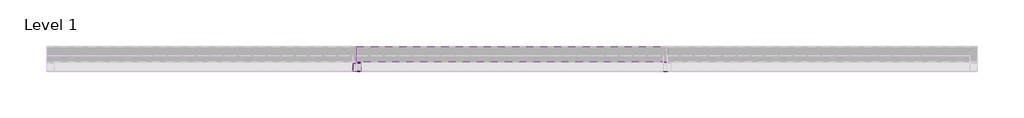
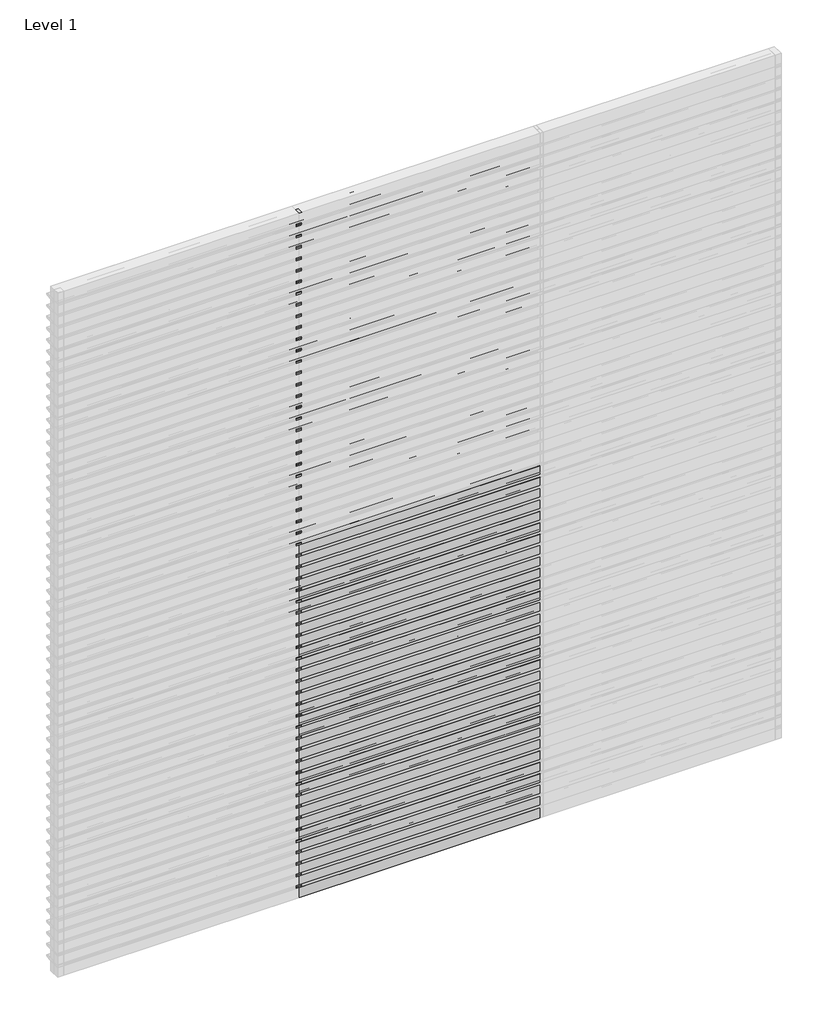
# One storey, part 3 of 6: 99 members, 31 plates.
"""IFC4 building model written with IfcOpenShell, lengths in millimetres."""

from ifc_helpers import new_model, si_unit, origin, place, context, project, spatial, transform, mapped, element, save
from components import rectangular_mullion_31e9810d, rectangular_mullion_ae434dd9, empty_system_panel_empty_de6cefbe, empty_system_panel_empty_499a71de

model = new_model("IFC4")

# Units and contexts
model_context = context("Model", 3, world=origin())
ifc_project = project(units=[si_unit("LENGTHUNIT", "METRE", prefix="MILLI")], contexts=[model_context])

# Site, building, storey
site = spatial("IfcSite", under=ifc_project)
building = spatial("IfcBuilding", under=site)
storey = spatial("IfcBuildingStorey", under=building, Name="Level 1", Elevation=0.0)

# Members
placement = place(None, origin())
rectangular_mullion_shape = rectangular_mullion_31e9810d(model_context)
element("IfcMember", 1, ObjectType="Rectangular Mullion : RSen_21_CWM_blade - 100 ellips - 0°_gen_duco projects", at=placement, inside=storey, context=model_context, shape_type="MappedRepresentation", body=[
    mapped(rectangular_mullion_shape, transform((2000.0, 3000.0, 2100.0), x_axis=(0.0, 0.0, 1.0), y_axis=(0.0, 1.0, 0.0), z_axis=(-1.0, 0.0, 0.0))),
])
element("IfcMember", 2, ObjectType="Rectangular Mullion : RSen_21_CWM_blade - 100 ellips - 0°_gen_duco projects", at=placement, inside=storey, context=model_context, shape_type="MappedRepresentation", body=[
    mapped(rectangular_mullion_shape, transform((2000.0, 3000.0, 2200.0), x_axis=(0.0, 0.0, 1.0), y_axis=(0.0, 1.0, 0.0), z_axis=(-1.0, 0.0, 0.0))),
])
element("IfcMember", 3, ObjectType="Rectangular Mullion : RSen_21_CWM_blade - 100 ellips - 0°_gen_duco projects", at=placement, inside=storey, context=model_context, shape_type="MappedRepresentation", body=[
    mapped(rectangular_mullion_shape, transform((2000.0, 3000.0, 2300.0), x_axis=(0.0, 0.0, 1.0), y_axis=(0.0, 1.0, 0.0), z_axis=(-1.0, 0.0, 0.0))),
])
element("IfcMember", 4, ObjectType="Rectangular Mullion : RSen_21_CWM_blade - 100 ellips - 0°_gen_duco projects", at=placement, inside=storey, context=model_context, shape_type="MappedRepresentation", body=[
    mapped(rectangular_mullion_shape, transform((2000.0, 3000.0, 2400.0), x_axis=(0.0, 0.0, 1.0), y_axis=(0.0, 1.0, 0.0), z_axis=(-1.0, 0.0, 0.0))),
])
element("IfcMember", 5, ObjectType="Rectangular Mullion : RSen_21_CWM_blade - 100 ellips - 0°_gen_duco projects", at=placement, inside=storey, context=model_context, shape_type="MappedRepresentation", body=[
    mapped(rectangular_mullion_shape, transform((2000.0, 3000.0, 2500.0), x_axis=(0.0, 0.0, 1.0), y_axis=(0.0, 1.0, 0.0), z_axis=(-1.0, 0.0, 0.0))),
])
element("IfcMember", 6, ObjectType="Rectangular Mullion : RSen_21_CWM_blade - 100 ellips - 0°_gen_duco projects", at=placement, inside=storey, context=model_context, shape_type="MappedRepresentation", body=[
    mapped(rectangular_mullion_shape, transform((2000.0, 3000.0, 2600.0), x_axis=(0.0, 0.0, 1.0), y_axis=(0.0, 1.0, 0.0), z_axis=(-1.0, 0.0, 0.0))),
])
element("IfcMember", 7, ObjectType="Rectangular Mullion : RSen_21_CWM_blade - 100 ellips - 0°_gen_duco projects", at=placement, inside=storey, context=model_context, shape_type="MappedRepresentation", body=[
    mapped(rectangular_mullion_shape, transform((2000.0, 3000.0, 2700.0), x_axis=(0.0, 0.0, 1.0), y_axis=(0.0, 1.0, 0.0), z_axis=(-1.0, 0.0, 0.0))),
])
element("IfcMember", 8, ObjectType="Rectangular Mullion : RSen_21_CWM_blade - 100 ellips - 0°_gen_duco projects", at=placement, inside=storey, context=model_context, shape_type="MappedRepresentation", body=[
    mapped(rectangular_mullion_shape, transform((2000.0, 3000.0, 2800.0), x_axis=(0.0, 0.0, 1.0), y_axis=(0.0, 1.0, 0.0), z_axis=(-1.0, 0.0, 0.0))),
])
element("IfcMember", 9, ObjectType="Rectangular Mullion : RSen_21_CWM_blade - 100 ellips - 0°_gen_duco projects", at=placement, inside=storey, context=model_context, shape_type="MappedRepresentation", body=[
    mapped(rectangular_mullion_shape, transform((2000.0, 3000.0, 2900.0), x_axis=(0.0, 0.0, 1.0), y_axis=(0.0, 1.0, 0.0), z_axis=(-1.0, 0.0, 0.0))),
])
element("IfcMember", 10, ObjectType="Rectangular Mullion : RSen_21_CWM_blade - 100 ellips - 0°_gen_duco projects", at=placement, inside=storey, context=model_context, shape_type="MappedRepresentation", body=[
    mapped(rectangular_mullion_shape, transform((2000.0, 3000.0, 3000.0), x_axis=(0.0, 0.0, 1.0), y_axis=(0.0, 1.0, 0.0), z_axis=(-1.0, 0.0, 0.0))),
])
element("IfcMember", 11, ObjectType="Rectangular Mullion : RSen_21_CWM_blade - 100 ellips - 0°_gen_duco projects", at=placement, inside=storey, context=model_context, shape_type="MappedRepresentation", body=[
    mapped(rectangular_mullion_shape, transform((2000.0, 3000.0, 3100.0), x_axis=(0.0, 0.0, 1.0), y_axis=(0.0, 1.0, 0.0), z_axis=(-1.0, 0.0, 0.0))),
])
element("IfcMember", 12, ObjectType="Rectangular Mullion : RSen_21_CWM_blade - 100 ellips - 0°_gen_duco projects", at=placement, inside=storey, context=model_context, shape_type="MappedRepresentation", body=[
    mapped(rectangular_mullion_shape, transform((2000.0, 3000.0, 3200.0), x_axis=(0.0, 0.0, 1.0), y_axis=(0.0, 1.0, 0.0), z_axis=(-1.0, 0.0, 0.0))),
])
element("IfcMember", 13, ObjectType="Rectangular Mullion : RSen_21_CWM_blade - 100 ellips - 0°_gen_duco projects", at=placement, inside=storey, context=model_context, shape_type="MappedRepresentation", body=[
    mapped(rectangular_mullion_shape, transform((2000.0, 3000.0, 3300.0), x_axis=(0.0, 0.0, 1.0), y_axis=(0.0, 1.0, 0.0), z_axis=(-1.0, 0.0, 0.0))),
])
element("IfcMember", 14, ObjectType="Rectangular Mullion : RSen_21_CWM_blade - 100 ellips - 0°_gen_duco projects", at=placement, inside=storey, context=model_context, shape_type="MappedRepresentation", body=[
    mapped(rectangular_mullion_shape, transform((2000.0, 3000.0, 3400.0), x_axis=(0.0, 0.0, 1.0), y_axis=(0.0, 1.0, 0.0), z_axis=(-1.0, 0.0, 0.0))),
])
element("IfcMember", 15, ObjectType="Rectangular Mullion : RSen_21_CWM_blade - 100 ellips - 0°_gen_duco projects", at=placement, inside=storey, context=model_context, shape_type="MappedRepresentation", body=[
    mapped(rectangular_mullion_shape, transform((2000.0, 3000.0, 3500.0), x_axis=(0.0, 0.0, 1.0), y_axis=(0.0, 1.0, 0.0), z_axis=(-1.0, 0.0, 0.0))),
])
element("IfcMember", 16, ObjectType="Rectangular Mullion : RSen_21_CWM_blade - 100 ellips - 0°_gen_duco projects", at=placement, inside=storey, context=model_context, shape_type="MappedRepresentation", body=[
    mapped(rectangular_mullion_shape, transform((2000.0, 3000.0, 3600.0), x_axis=(0.0, 0.0, 1.0), y_axis=(0.0, 1.0, 0.0), z_axis=(-1.0, 0.0, 0.0))),
])
element("IfcMember", 17, ObjectType="Rectangular Mullion : RSen_21_CWM_blade - 100 ellips - 0°_gen_duco projects", at=placement, inside=storey, context=model_context, shape_type="MappedRepresentation", body=[
    mapped(rectangular_mullion_shape, transform((2000.0, 3000.0, 3700.0), x_axis=(0.0, 0.0, 1.0), y_axis=(0.0, 1.0, 0.0), z_axis=(-1.0, 0.0, 0.0))),
])
element("IfcMember", 18, ObjectType="Rectangular Mullion : RSen_21_CWM_blade - 100 ellips - 0°_gen_duco projects", at=placement, inside=storey, context=model_context, shape_type="MappedRepresentation", body=[
    mapped(rectangular_mullion_shape, transform((2000.0, 3000.0, 3800.0), x_axis=(0.0, 0.0, 1.0), y_axis=(0.0, 1.0, 0.0), z_axis=(-1.0, 0.0, 0.0))),
])
element("IfcMember", 19, ObjectType="Rectangular Mullion : RSen_21_CWM_blade - 100 ellips - 0°_gen_duco projects", at=placement, inside=storey, context=model_context, shape_type="MappedRepresentation", body=[
    mapped(rectangular_mullion_shape, transform((2000.0, 3000.0, 3900.0), x_axis=(0.0, 0.0, 1.0), y_axis=(0.0, 1.0, 0.0), z_axis=(-1.0, 0.0, 0.0))),
])
element("IfcMember", 20, ObjectType="Rectangular Mullion : RSen_21_CWM_blade - 100 ellips - 0°_gen_duco projects", at=placement, inside=storey, context=model_context, shape_type="MappedRepresentation", body=[
    mapped(rectangular_mullion_shape, transform((2000.0, 3000.0, 4000.0), x_axis=(0.0, 0.0, 1.0), y_axis=(0.0, 1.0, 0.0), z_axis=(-1.0, 0.0, 0.0))),
])
element("IfcMember", 21, ObjectType="Rectangular Mullion : RSen_21_CWM_blade - 100 ellips - 0°_gen_duco projects", at=placement, inside=storey, context=model_context, shape_type="MappedRepresentation", body=[
    mapped(rectangular_mullion_shape, transform((2000.0, 3000.0, 4100.0), x_axis=(0.0, 0.0, 1.0), y_axis=(0.0, 1.0, 0.0), z_axis=(-1.0, 0.0, 0.0))),
])
element("IfcMember", 22, ObjectType="Rectangular Mullion : RSen_21_CWM_blade - 100 ellips - 0°_gen_duco projects", at=placement, inside=storey, context=model_context, shape_type="MappedRepresentation", body=[
    mapped(rectangular_mullion_shape, transform((2000.0, 3000.0, 4200.0), x_axis=(0.0, 0.0, 1.0), y_axis=(0.0, 1.0, 0.0), z_axis=(-1.0, 0.0, 0.0))),
])
element("IfcMember", 23, ObjectType="Rectangular Mullion : RSen_21_CWM_blade - 100 ellips - 0°_gen_duco projects", at=placement, inside=storey, context=model_context, shape_type="MappedRepresentation", body=[
    mapped(rectangular_mullion_shape, transform((2000.0, 3000.0, 4300.0), x_axis=(0.0, 0.0, 1.0), y_axis=(0.0, 1.0, 0.0), z_axis=(-1.0, 0.0, 0.0))),
])
element("IfcMember", 24, ObjectType="Rectangular Mullion : RSen_21_CWM_blade - 100 ellips - 0°_gen_duco projects", at=placement, inside=storey, context=model_context, shape_type="MappedRepresentation", body=[
    mapped(rectangular_mullion_shape, transform((2000.0, 3000.0, 4400.0), x_axis=(0.0, 0.0, 1.0), y_axis=(0.0, 1.0, 0.0), z_axis=(-1.0, 0.0, 0.0))),
])
element("IfcMember", 25, ObjectType="Rectangular Mullion : RSen_21_CWM_blade - 100 ellips - 0°_gen_duco projects", at=placement, inside=storey, context=model_context, shape_type="MappedRepresentation", body=[
    mapped(rectangular_mullion_shape, transform((2000.0, 3000.0, 4500.0), x_axis=(0.0, 0.0, 1.0), y_axis=(0.0, 1.0, 0.0), z_axis=(-1.0, 0.0, 0.0))),
])
element("IfcMember", 26, ObjectType="Rectangular Mullion : RSen_21_CWM_blade - 100 ellips - 0°_gen_duco projects", at=placement, inside=storey, context=model_context, shape_type="MappedRepresentation", body=[
    mapped(rectangular_mullion_shape, transform((2000.0, 3000.0, 4600.0), x_axis=(0.0, 0.0, 1.0), y_axis=(0.0, 1.0, 0.0), z_axis=(-1.0, 0.0, 0.0))),
])
element("IfcMember", 27, ObjectType="Rectangular Mullion : RSen_21_CWM_blade - 100 ellips - 0°_gen_duco projects", at=placement, inside=storey, context=model_context, shape_type="MappedRepresentation", body=[
    mapped(rectangular_mullion_shape, transform((2000.0, 3000.0, 4700.0), x_axis=(0.0, 0.0, 1.0), y_axis=(0.0, 1.0, 0.0), z_axis=(-1.0, 0.0, 0.0))),
])
element("IfcMember", 28, ObjectType="Rectangular Mullion : RSen_21_CWM_blade - 100 ellips - 0°_gen_duco projects", at=placement, inside=storey, context=model_context, shape_type="MappedRepresentation", body=[
    mapped(rectangular_mullion_shape, transform((2000.0, 3000.0, 4800.0), x_axis=(0.0, 0.0, 1.0), y_axis=(0.0, 1.0, 0.0), z_axis=(-1.0, 0.0, 0.0))),
])
element("IfcMember", 29, ObjectType="Rectangular Mullion : RSen_21_CWM_blade - 100 ellips - 0°_gen_duco projects", at=placement, inside=storey, context=model_context, shape_type="MappedRepresentation", body=[
    mapped(rectangular_mullion_shape, transform((2000.0, 3000.0, 4900.0), x_axis=(0.0, 0.0, 1.0), y_axis=(0.0, 1.0, 0.0), z_axis=(-1.0, 0.0, 0.0))),
])
element("IfcMember", 30, ObjectType="Rectangular Mullion : RSen_21_CWM_blade - 100 ellips - 0°_gen_duco projects", at=placement, inside=storey, context=model_context, shape_type="MappedRepresentation", body=[
    mapped(rectangular_mullion_shape, transform((2000.0, 3000.0, 5000.0), x_axis=(0.0, 0.0, 1.0), y_axis=(0.0, 1.0, 0.0), z_axis=(-1.0, 0.0, 0.0))),
])
element("IfcMember", 31, ObjectType="Rectangular Mullion : RSen_21_CWM_blade - 100 ellips - 0°_gen_duco projects", at=placement, inside=storey, context=model_context, shape_type="MappedRepresentation", body=[
    mapped(rectangular_mullion_shape, transform((2000.0, 3000.0, 5100.0), x_axis=(0.0, 0.0, 1.0), y_axis=(0.0, 1.0, 0.0), z_axis=(-1.0, 0.0, 0.0))),
])
element("IfcMember", 32, ObjectType="Rectangular Mullion : RSen_21_CWM_blade - 100 ellips - 0°_gen_duco projects", at=placement, inside=storey, context=model_context, shape_type="MappedRepresentation", body=[
    mapped(rectangular_mullion_shape, transform((2000.0, 3000.0, 5200.0), x_axis=(0.0, 0.0, 1.0), y_axis=(0.0, 1.0, 0.0), z_axis=(-1.0, 0.0, 0.0))),
])
element("IfcMember", 33, ObjectType="Rectangular Mullion : RSen_21_CWM_blade - 100 ellips - 0°_gen_duco projects", at=placement, inside=storey, context=model_context, shape_type="MappedRepresentation", body=[
    mapped(rectangular_mullion_shape, transform((2000.0, 3000.0, 5300.0), x_axis=(0.0, 0.0, 1.0), y_axis=(0.0, 1.0, 0.0), z_axis=(-1.0, 0.0, 0.0))),
])
element("IfcMember", 34, ObjectType="Rectangular Mullion : RSen_21_CWM_blade - 100 ellips - 0°_gen_duco projects", at=placement, inside=storey, context=model_context, shape_type="MappedRepresentation", body=[
    mapped(rectangular_mullion_shape, transform((2000.0, 3000.0, 5400.0), x_axis=(0.0, 0.0, 1.0), y_axis=(0.0, 1.0, 0.0), z_axis=(-1.0, 0.0, 0.0))),
])
element("IfcMember", 35, ObjectType="Rectangular Mullion : RSen_21_CWM_blade - 100 ellips - 0°_gen_duco projects", at=placement, inside=storey, context=model_context, shape_type="MappedRepresentation", body=[
    mapped(rectangular_mullion_shape, transform((2000.0, 3000.0, 5500.0), x_axis=(0.0, 0.0, 1.0), y_axis=(0.0, 1.0, 0.0), z_axis=(-1.0, 0.0, 0.0))),
])
element("IfcMember", 36, ObjectType="Rectangular Mullion : RSen_21_CWM_blade - 100 ellips - 0°_gen_duco projects", at=placement, inside=storey, context=model_context, shape_type="MappedRepresentation", body=[
    mapped(rectangular_mullion_shape, transform((2000.0, 3000.0, 5600.0), x_axis=(0.0, 0.0, 1.0), y_axis=(0.0, 1.0, 0.0), z_axis=(-1.0, 0.0, 0.0))),
])
element("IfcMember", 37, ObjectType="Rectangular Mullion : RSen_21_CWM_blade - 100 ellips - 0°_gen_duco projects", at=placement, inside=storey, context=model_context, shape_type="MappedRepresentation", body=[
    mapped(rectangular_mullion_shape, transform((2000.0, 3000.0, 5700.0), x_axis=(0.0, 0.0, 1.0), y_axis=(0.0, 1.0, 0.0), z_axis=(-1.0, 0.0, 0.0))),
])
element("IfcMember", 38, ObjectType="Rectangular Mullion : RSen_21_CWM_blade - 100 ellips - 0°_gen_duco projects", at=placement, inside=storey, context=model_context, shape_type="MappedRepresentation", body=[
    mapped(rectangular_mullion_shape, transform((2000.0, 3000.0, 5800.0), x_axis=(0.0, 0.0, 1.0), y_axis=(0.0, 1.0, 0.0), z_axis=(-1.0, 0.0, 0.0))),
])
element("IfcMember", 39, ObjectType="Rectangular Mullion : RSen_21_CWM_blade - 100 ellips - 0°_gen_duco projects", at=placement, inside=storey, context=model_context, shape_type="MappedRepresentation", body=[
    mapped(rectangular_mullion_shape, transform((2000.0, 3000.0, 5900.0), x_axis=(0.0, 0.0, 1.0), y_axis=(0.0, 1.0, 0.0), z_axis=(-1.0, 0.0, 0.0))),
])
rectangular_mullion_2_shape = rectangular_mullion_ae434dd9(model_context)
element("IfcMember", 40, ObjectType="Rectangular Mullion : RSen_21_CWM_support profile 50x50_gen_duco projects", at=placement, inside=storey, context=model_context, shape_type="MappedRepresentation", body=[
    mapped(rectangular_mullion_2_shape, transform((2000.0, 3000.0, 0.0), x_axis=(-1.0, 0.0, 0.0), y_axis=(0.0, 1.0, 0.0), z_axis=(0.0, 0.0, -1.0))),
])
element("IfcMember", 41, ObjectType="Rectangular Mullion : RSen_21_CWM_support profile 50x50_gen_duco projects", at=placement, inside=storey, context=model_context, shape_type="MappedRepresentation", body=[
    mapped(rectangular_mullion_2_shape, transform((2000.0, 3000.0, 100.0), x_axis=(-1.0, 0.0, 0.0), y_axis=(0.0, 1.0, 0.0), z_axis=(0.0, 0.0, -1.0))),
])
element("IfcMember", 42, ObjectType="Rectangular Mullion : RSen_21_CWM_support profile 50x50_gen_duco projects", at=placement, inside=storey, context=model_context, shape_type="MappedRepresentation", body=[
    mapped(rectangular_mullion_2_shape, transform((2000.0, 3000.0, 200.0), x_axis=(-1.0, 0.0, 0.0), y_axis=(0.0, 1.0, 0.0), z_axis=(0.0, 0.0, -1.0))),
])
element("IfcMember", 43, ObjectType="Rectangular Mullion : RSen_21_CWM_support profile 50x50_gen_duco projects", at=placement, inside=storey, context=model_context, shape_type="MappedRepresentation", body=[
    mapped(rectangular_mullion_2_shape, transform((2000.0, 3000.0, 300.0), x_axis=(-1.0, 0.0, 0.0), y_axis=(0.0, 1.0, 0.0), z_axis=(0.0, 0.0, -1.0))),
])
element("IfcMember", 44, ObjectType="Rectangular Mullion : RSen_21_CWM_support profile 50x50_gen_duco projects", at=placement, inside=storey, context=model_context, shape_type="MappedRepresentation", body=[
    mapped(rectangular_mullion_2_shape, transform((2000.0, 3000.0, 400.0), x_axis=(-1.0, 0.0, 0.0), y_axis=(0.0, 1.0, 0.0), z_axis=(0.0, 0.0, -1.0))),
])
element("IfcMember", 45, ObjectType="Rectangular Mullion : RSen_21_CWM_support profile 50x50_gen_duco projects", at=placement, inside=storey, context=model_context, shape_type="MappedRepresentation", body=[
    mapped(rectangular_mullion_2_shape, transform((2000.0, 3000.0, 500.0), x_axis=(-1.0, 0.0, 0.0), y_axis=(0.0, 1.0, 0.0), z_axis=(0.0, 0.0, -1.0))),
])
element("IfcMember", 46, ObjectType="Rectangular Mullion : RSen_21_CWM_support profile 50x50_gen_duco projects", at=placement, inside=storey, context=model_context, shape_type="MappedRepresentation", body=[
    mapped(rectangular_mullion_2_shape, transform((2000.0, 3000.0, 600.0), x_axis=(-1.0, 0.0, 0.0), y_axis=(0.0, 1.0, 0.0), z_axis=(0.0, 0.0, -1.0))),
])
element("IfcMember", 47, ObjectType="Rectangular Mullion : RSen_21_CWM_support profile 50x50_gen_duco projects", at=placement, inside=storey, context=model_context, shape_type="MappedRepresentation", body=[
    mapped(rectangular_mullion_2_shape, transform((2000.0, 3000.0, 700.0), x_axis=(-1.0, 0.0, 0.0), y_axis=(0.0, 1.0, 0.0), z_axis=(0.0, 0.0, -1.0))),
])
element("IfcMember", 48, ObjectType="Rectangular Mullion : RSen_21_CWM_support profile 50x50_gen_duco projects", at=placement, inside=storey, context=model_context, shape_type="MappedRepresentation", body=[
    mapped(rectangular_mullion_2_shape, transform((2000.0, 3000.0, 800.0), x_axis=(-1.0, 0.0, 0.0), y_axis=(0.0, 1.0, 0.0), z_axis=(0.0, 0.0, -1.0))),
])
element("IfcMember", 49, ObjectType="Rectangular Mullion : RSen_21_CWM_support profile 50x50_gen_duco projects", at=placement, inside=storey, context=model_context, shape_type="MappedRepresentation", body=[
    mapped(rectangular_mullion_2_shape, transform((2000.0, 3000.0, 900.0), x_axis=(-1.0, 0.0, 0.0), y_axis=(0.0, 1.0, 0.0), z_axis=(0.0, 0.0, -1.0))),
])
element("IfcMember", 50, ObjectType="Rectangular Mullion : RSen_21_CWM_support profile 50x50_gen_duco projects", at=placement, inside=storey, context=model_context, shape_type="MappedRepresentation", body=[
    mapped(rectangular_mullion_2_shape, transform((2000.0, 3000.0, 1000.0), x_axis=(-1.0, 0.0, 0.0), y_axis=(0.0, 1.0, 0.0), z_axis=(0.0, 0.0, -1.0))),
])
element("IfcMember", 51, ObjectType="Rectangular Mullion : RSen_21_CWM_support profile 50x50_gen_duco projects", at=placement, inside=storey, context=model_context, shape_type="MappedRepresentation", body=[
    mapped(rectangular_mullion_2_shape, transform((2000.0, 3000.0, 1100.0), x_axis=(-1.0, 0.0, 0.0), y_axis=(0.0, 1.0, 0.0), z_axis=(0.0, 0.0, -1.0))),
])
element("IfcMember", 52, ObjectType="Rectangular Mullion : RSen_21_CWM_support profile 50x50_gen_duco projects", at=placement, inside=storey, context=model_context, shape_type="MappedRepresentation", body=[
    mapped(rectangular_mullion_2_shape, transform((2000.0, 3000.0, 1200.0), x_axis=(-1.0, 0.0, 0.0), y_axis=(0.0, 1.0, 0.0), z_axis=(0.0, 0.0, -1.0))),
])
element("IfcMember", 53, ObjectType="Rectangular Mullion : RSen_21_CWM_support profile 50x50_gen_duco projects", at=placement, inside=storey, context=model_context, shape_type="MappedRepresentation", body=[
    mapped(rectangular_mullion_2_shape, transform((2000.0, 3000.0, 1300.0), x_axis=(-1.0, 0.0, 0.0), y_axis=(0.0, 1.0, 0.0), z_axis=(0.0, 0.0, -1.0))),
])
element("IfcMember", 54, ObjectType="Rectangular Mullion : RSen_21_CWM_support profile 50x50_gen_duco projects", at=placement, inside=storey, context=model_context, shape_type="MappedRepresentation", body=[
    mapped(rectangular_mullion_2_shape, transform((2000.0, 3000.0, 1400.0), x_axis=(-1.0, 0.0, 0.0), y_axis=(0.0, 1.0, 0.0), z_axis=(0.0, 0.0, -1.0))),
])
element("IfcMember", 55, ObjectType="Rectangular Mullion : RSen_21_CWM_support profile 50x50_gen_duco projects", at=placement, inside=storey, context=model_context, shape_type="MappedRepresentation", body=[
    mapped(rectangular_mullion_2_shape, transform((2000.0, 3000.0, 1500.0), x_axis=(-1.0, 0.0, 0.0), y_axis=(0.0, 1.0, 0.0), z_axis=(0.0, 0.0, -1.0))),
])
element("IfcMember", 56, ObjectType="Rectangular Mullion : RSen_21_CWM_support profile 50x50_gen_duco projects", at=placement, inside=storey, context=model_context, shape_type="MappedRepresentation", body=[
    mapped(rectangular_mullion_2_shape, transform((2000.0, 3000.0, 1600.0), x_axis=(-1.0, 0.0, 0.0), y_axis=(0.0, 1.0, 0.0), z_axis=(0.0, 0.0, -1.0))),
])
element("IfcMember", 57, ObjectType="Rectangular Mullion : RSen_21_CWM_support profile 50x50_gen_duco projects", at=placement, inside=storey, context=model_context, shape_type="MappedRepresentation", body=[
    mapped(rectangular_mullion_2_shape, transform((2000.0, 3000.0, 1700.0), x_axis=(-1.0, 0.0, 0.0), y_axis=(0.0, 1.0, 0.0), z_axis=(0.0, 0.0, -1.0))),
])
element("IfcMember", 58, ObjectType="Rectangular Mullion : RSen_21_CWM_support profile 50x50_gen_duco projects", at=placement, inside=storey, context=model_context, shape_type="MappedRepresentation", body=[
    mapped(rectangular_mullion_2_shape, transform((2000.0, 3000.0, 1800.0), x_axis=(-1.0, 0.0, 0.0), y_axis=(0.0, 1.0, 0.0), z_axis=(0.0, 0.0, -1.0))),
])
element("IfcMember", 59, ObjectType="Rectangular Mullion : RSen_21_CWM_support profile 50x50_gen_duco projects", at=placement, inside=storey, context=model_context, shape_type="MappedRepresentation", body=[
    mapped(rectangular_mullion_2_shape, transform((2000.0, 3000.0, 1900.0), x_axis=(-1.0, 0.0, 0.0), y_axis=(0.0, 1.0, 0.0), z_axis=(0.0, 0.0, -1.0))),
])
element("IfcMember", 60, ObjectType="Rectangular Mullion : RSen_21_CWM_support profile 50x50_gen_duco projects", at=placement, inside=storey, context=model_context, shape_type="MappedRepresentation", body=[
    mapped(rectangular_mullion_2_shape, transform((2000.0, 3000.0, 2000.0), x_axis=(-1.0, 0.0, 0.0), y_axis=(0.0, 1.0, 0.0), z_axis=(0.0, 0.0, -1.0))),
])
element("IfcMember", 61, ObjectType="Rectangular Mullion : RSen_21_CWM_support profile 50x50_gen_duco projects", at=placement, inside=storey, context=model_context, shape_type="MappedRepresentation", body=[
    mapped(rectangular_mullion_2_shape, transform((2000.0, 3000.0, 2100.0), x_axis=(-1.0, 0.0, 0.0), y_axis=(0.0, 1.0, 0.0), z_axis=(0.0, 0.0, -1.0))),
])
element("IfcMember", 62, ObjectType="Rectangular Mullion : RSen_21_CWM_support profile 50x50_gen_duco projects", at=placement, inside=storey, context=model_context, shape_type="MappedRepresentation", body=[
    mapped(rectangular_mullion_2_shape, transform((2000.0, 3000.0, 2200.0), x_axis=(-1.0, 0.0, 0.0), y_axis=(0.0, 1.0, 0.0), z_axis=(0.0, 0.0, -1.0))),
])
element("IfcMember", 63, ObjectType="Rectangular Mullion : RSen_21_CWM_support profile 50x50_gen_duco projects", at=placement, inside=storey, context=model_context, shape_type="MappedRepresentation", body=[
    mapped(rectangular_mullion_2_shape, transform((2000.0, 3000.0, 2300.0), x_axis=(-1.0, 0.0, 0.0), y_axis=(0.0, 1.0, 0.0), z_axis=(0.0, 0.0, -1.0))),
])
element("IfcMember", 64, ObjectType="Rectangular Mullion : RSen_21_CWM_support profile 50x50_gen_duco projects", at=placement, inside=storey, context=model_context, shape_type="MappedRepresentation", body=[
    mapped(rectangular_mullion_2_shape, transform((2000.0, 3000.0, 2400.0), x_axis=(-1.0, 0.0, 0.0), y_axis=(0.0, 1.0, 0.0), z_axis=(0.0, 0.0, -1.0))),
])
element("IfcMember", 65, ObjectType="Rectangular Mullion : RSen_21_CWM_support profile 50x50_gen_duco projects", at=placement, inside=storey, context=model_context, shape_type="MappedRepresentation", body=[
    mapped(rectangular_mullion_2_shape, transform((2000.0, 3000.0, 2500.0), x_axis=(-1.0, 0.0, 0.0), y_axis=(0.0, 1.0, 0.0), z_axis=(0.0, 0.0, -1.0))),
])
element("IfcMember", 66, ObjectType="Rectangular Mullion : RSen_21_CWM_support profile 50x50_gen_duco projects", at=placement, inside=storey, context=model_context, shape_type="MappedRepresentation", body=[
    mapped(rectangular_mullion_2_shape, transform((2000.0, 3000.0, 2600.0), x_axis=(-1.0, 0.0, 0.0), y_axis=(0.0, 1.0, 0.0), z_axis=(0.0, 0.0, -1.0))),
])
element("IfcMember", 67, ObjectType="Rectangular Mullion : RSen_21_CWM_support profile 50x50_gen_duco projects", at=placement, inside=storey, context=model_context, shape_type="MappedRepresentation", body=[
    mapped(rectangular_mullion_2_shape, transform((2000.0, 3000.0, 2700.0), x_axis=(-1.0, 0.0, 0.0), y_axis=(0.0, 1.0, 0.0), z_axis=(0.0, 0.0, -1.0))),
])
element("IfcMember", 68, ObjectType="Rectangular Mullion : RSen_21_CWM_support profile 50x50_gen_duco projects", at=placement, inside=storey, context=model_context, shape_type="MappedRepresentation", body=[
    mapped(rectangular_mullion_2_shape, transform((2000.0, 3000.0, 2800.0), x_axis=(-1.0, 0.0, 0.0), y_axis=(0.0, 1.0, 0.0), z_axis=(0.0, 0.0, -1.0))),
])
element("IfcMember", 69, ObjectType="Rectangular Mullion : RSen_21_CWM_support profile 50x50_gen_duco projects", at=placement, inside=storey, context=model_context, shape_type="MappedRepresentation", body=[
    mapped(rectangular_mullion_2_shape, transform((2000.0, 3000.0, 2900.0), x_axis=(-1.0, 0.0, 0.0), y_axis=(0.0, 1.0, 0.0), z_axis=(0.0, 0.0, -1.0))),
])
element("IfcMember", 70, ObjectType="Rectangular Mullion : RSen_21_CWM_support profile 50x50_gen_duco projects", at=placement, inside=storey, context=model_context, shape_type="MappedRepresentation", body=[
    mapped(rectangular_mullion_2_shape, transform((2000.0, 3000.0, 3000.0), x_axis=(-1.0, 0.0, 0.0), y_axis=(0.0, 1.0, 0.0), z_axis=(0.0, 0.0, -1.0))),
])
element("IfcMember", 71, ObjectType="Rectangular Mullion : RSen_21_CWM_support profile 50x50_gen_duco projects", at=placement, inside=storey, context=model_context, shape_type="MappedRepresentation", body=[
    mapped(rectangular_mullion_2_shape, transform((2000.0, 3000.0, 3100.0), x_axis=(-1.0, 0.0, 0.0), y_axis=(0.0, 1.0, 0.0), z_axis=(0.0, 0.0, -1.0))),
])
element("IfcMember", 72, ObjectType="Rectangular Mullion : RSen_21_CWM_support profile 50x50_gen_duco projects", at=placement, inside=storey, context=model_context, shape_type="MappedRepresentation", body=[
    mapped(rectangular_mullion_2_shape, transform((2000.0, 3000.0, 3200.0), x_axis=(-1.0, 0.0, 0.0), y_axis=(0.0, 1.0, 0.0), z_axis=(0.0, 0.0, -1.0))),
])
element("IfcMember", 73, ObjectType="Rectangular Mullion : RSen_21_CWM_support profile 50x50_gen_duco projects", at=placement, inside=storey, context=model_context, shape_type="MappedRepresentation", body=[
    mapped(rectangular_mullion_2_shape, transform((2000.0, 3000.0, 3300.0), x_axis=(-1.0, 0.0, 0.0), y_axis=(0.0, 1.0, 0.0), z_axis=(0.0, 0.0, -1.0))),
])
element("IfcMember", 74, ObjectType="Rectangular Mullion : RSen_21_CWM_support profile 50x50_gen_duco projects", at=placement, inside=storey, context=model_context, shape_type="MappedRepresentation", body=[
    mapped(rectangular_mullion_2_shape, transform((2000.0, 3000.0, 3400.0), x_axis=(-1.0, 0.0, 0.0), y_axis=(0.0, 1.0, 0.0), z_axis=(0.0, 0.0, -1.0))),
])
element("IfcMember", 75, ObjectType="Rectangular Mullion : RSen_21_CWM_support profile 50x50_gen_duco projects", at=placement, inside=storey, context=model_context, shape_type="MappedRepresentation", body=[
    mapped(rectangular_mullion_2_shape, transform((2000.0, 3000.0, 3500.0), x_axis=(-1.0, 0.0, 0.0), y_axis=(0.0, 1.0, 0.0), z_axis=(0.0, 0.0, -1.0))),
])
element("IfcMember", 76, ObjectType="Rectangular Mullion : RSen_21_CWM_support profile 50x50_gen_duco projects", at=placement, inside=storey, context=model_context, shape_type="MappedRepresentation", body=[
    mapped(rectangular_mullion_2_shape, transform((2000.0, 3000.0, 3600.0), x_axis=(-1.0, 0.0, 0.0), y_axis=(0.0, 1.0, 0.0), z_axis=(0.0, 0.0, -1.0))),
])
element("IfcMember", 77, ObjectType="Rectangular Mullion : RSen_21_CWM_support profile 50x50_gen_duco projects", at=placement, inside=storey, context=model_context, shape_type="MappedRepresentation", body=[
    mapped(rectangular_mullion_2_shape, transform((2000.0, 3000.0, 3700.0), x_axis=(-1.0, 0.0, 0.0), y_axis=(0.0, 1.0, 0.0), z_axis=(0.0, 0.0, -1.0))),
])
element("IfcMember", 78, ObjectType="Rectangular Mullion : RSen_21_CWM_support profile 50x50_gen_duco projects", at=placement, inside=storey, context=model_context, shape_type="MappedRepresentation", body=[
    mapped(rectangular_mullion_2_shape, transform((2000.0, 3000.0, 3800.0), x_axis=(-1.0, 0.0, 0.0), y_axis=(0.0, 1.0, 0.0), z_axis=(0.0, 0.0, -1.0))),
])
element("IfcMember", 79, ObjectType="Rectangular Mullion : RSen_21_CWM_support profile 50x50_gen_duco projects", at=placement, inside=storey, context=model_context, shape_type="MappedRepresentation", body=[
    mapped(rectangular_mullion_2_shape, transform((2000.0, 3000.0, 3900.0), x_axis=(-1.0, 0.0, 0.0), y_axis=(0.0, 1.0, 0.0), z_axis=(0.0, 0.0, -1.0))),
])
element("IfcMember", 80, ObjectType="Rectangular Mullion : RSen_21_CWM_support profile 50x50_gen_duco projects", at=placement, inside=storey, context=model_context, shape_type="MappedRepresentation", body=[
    mapped(rectangular_mullion_2_shape, transform((2000.0, 3000.0, 4000.0), x_axis=(-1.0, 0.0, 0.0), y_axis=(0.0, 1.0, 0.0), z_axis=(0.0, 0.0, -1.0))),
])
element("IfcMember", 81, ObjectType="Rectangular Mullion : RSen_21_CWM_support profile 50x50_gen_duco projects", at=placement, inside=storey, context=model_context, shape_type="MappedRepresentation", body=[
    mapped(rectangular_mullion_2_shape, transform((2000.0, 3000.0, 4100.0), x_axis=(-1.0, 0.0, 0.0), y_axis=(0.0, 1.0, 0.0), z_axis=(0.0, 0.0, -1.0))),
])
element("IfcMember", 82, ObjectType="Rectangular Mullion : RSen_21_CWM_support profile 50x50_gen_duco projects", at=placement, inside=storey, context=model_context, shape_type="MappedRepresentation", body=[
    mapped(rectangular_mullion_2_shape, transform((2000.0, 3000.0, 4200.0), x_axis=(-1.0, 0.0, 0.0), y_axis=(0.0, 1.0, 0.0), z_axis=(0.0, 0.0, -1.0))),
])
element("IfcMember", 83, ObjectType="Rectangular Mullion : RSen_21_CWM_support profile 50x50_gen_duco projects", at=placement, inside=storey, context=model_context, shape_type="MappedRepresentation", body=[
    mapped(rectangular_mullion_2_shape, transform((2000.0, 3000.0, 4300.0), x_axis=(-1.0, 0.0, 0.0), y_axis=(0.0, 1.0, 0.0), z_axis=(0.0, 0.0, -1.0))),
])
element("IfcMember", 84, ObjectType="Rectangular Mullion : RSen_21_CWM_support profile 50x50_gen_duco projects", at=placement, inside=storey, context=model_context, shape_type="MappedRepresentation", body=[
    mapped(rectangular_mullion_2_shape, transform((2000.0, 3000.0, 4400.0), x_axis=(-1.0, 0.0, 0.0), y_axis=(0.0, 1.0, 0.0), z_axis=(0.0, 0.0, -1.0))),
])
element("IfcMember", 85, ObjectType="Rectangular Mullion : RSen_21_CWM_support profile 50x50_gen_duco projects", at=placement, inside=storey, context=model_context, shape_type="MappedRepresentation", body=[
    mapped(rectangular_mullion_2_shape, transform((2000.0, 3000.0, 4500.0), x_axis=(-1.0, 0.0, 0.0), y_axis=(0.0, 1.0, 0.0), z_axis=(0.0, 0.0, -1.0))),
])
element("IfcMember", 86, ObjectType="Rectangular Mullion : RSen_21_CWM_support profile 50x50_gen_duco projects", at=placement, inside=storey, context=model_context, shape_type="MappedRepresentation", body=[
    mapped(rectangular_mullion_2_shape, transform((2000.0, 3000.0, 4600.0), x_axis=(-1.0, 0.0, 0.0), y_axis=(0.0, 1.0, 0.0), z_axis=(0.0, 0.0, -1.0))),
])
element("IfcMember", 87, ObjectType="Rectangular Mullion : RSen_21_CWM_support profile 50x50_gen_duco projects", at=placement, inside=storey, context=model_context, shape_type="MappedRepresentation", body=[
    mapped(rectangular_mullion_2_shape, transform((2000.0, 3000.0, 4700.0), x_axis=(-1.0, 0.0, 0.0), y_axis=(0.0, 1.0, 0.0), z_axis=(0.0, 0.0, -1.0))),
])
element("IfcMember", 88, ObjectType="Rectangular Mullion : RSen_21_CWM_support profile 50x50_gen_duco projects", at=placement, inside=storey, context=model_context, shape_type="MappedRepresentation", body=[
    mapped(rectangular_mullion_2_shape, transform((2000.0, 3000.0, 4800.0), x_axis=(-1.0, 0.0, 0.0), y_axis=(0.0, 1.0, 0.0), z_axis=(0.0, 0.0, -1.0))),
])
element("IfcMember", 89, ObjectType="Rectangular Mullion : RSen_21_CWM_support profile 50x50_gen_duco projects", at=placement, inside=storey, context=model_context, shape_type="MappedRepresentation", body=[
    mapped(rectangular_mullion_2_shape, transform((2000.0, 3000.0, 4900.0), x_axis=(-1.0, 0.0, 0.0), y_axis=(0.0, 1.0, 0.0), z_axis=(0.0, 0.0, -1.0))),
])
element("IfcMember", 90, ObjectType="Rectangular Mullion : RSen_21_CWM_support profile 50x50_gen_duco projects", at=placement, inside=storey, context=model_context, shape_type="MappedRepresentation", body=[
    mapped(rectangular_mullion_2_shape, transform((2000.0, 3000.0, 5000.0), x_axis=(-1.0, 0.0, 0.0), y_axis=(0.0, 1.0, 0.0), z_axis=(0.0, 0.0, -1.0))),
])
element("IfcMember", 91, ObjectType="Rectangular Mullion : RSen_21_CWM_support profile 50x50_gen_duco projects", at=placement, inside=storey, context=model_context, shape_type="MappedRepresentation", body=[
    mapped(rectangular_mullion_2_shape, transform((2000.0, 3000.0, 5100.0), x_axis=(-1.0, 0.0, 0.0), y_axis=(0.0, 1.0, 0.0), z_axis=(0.0, 0.0, -1.0))),
])
element("IfcMember", 92, ObjectType="Rectangular Mullion : RSen_21_CWM_support profile 50x50_gen_duco projects", at=placement, inside=storey, context=model_context, shape_type="MappedRepresentation", body=[
    mapped(rectangular_mullion_2_shape, transform((2000.0, 3000.0, 5200.0), x_axis=(-1.0, 0.0, 0.0), y_axis=(0.0, 1.0, 0.0), z_axis=(0.0, 0.0, -1.0))),
])
element("IfcMember", 93, ObjectType="Rectangular Mullion : RSen_21_CWM_support profile 50x50_gen_duco projects", at=placement, inside=storey, context=model_context, shape_type="MappedRepresentation", body=[
    mapped(rectangular_mullion_2_shape, transform((2000.0, 3000.0, 5300.0), x_axis=(-1.0, 0.0, 0.0), y_axis=(0.0, 1.0, 0.0), z_axis=(0.0, 0.0, -1.0))),
])
element("IfcMember", 94, ObjectType="Rectangular Mullion : RSen_21_CWM_support profile 50x50_gen_duco projects", at=placement, inside=storey, context=model_context, shape_type="MappedRepresentation", body=[
    mapped(rectangular_mullion_2_shape, transform((2000.0, 3000.0, 5400.0), x_axis=(-1.0, 0.0, 0.0), y_axis=(0.0, 1.0, 0.0), z_axis=(0.0, 0.0, -1.0))),
])
element("IfcMember", 95, ObjectType="Rectangular Mullion : RSen_21_CWM_support profile 50x50_gen_duco projects", at=placement, inside=storey, context=model_context, shape_type="MappedRepresentation", body=[
    mapped(rectangular_mullion_2_shape, transform((2000.0, 3000.0, 5500.0), x_axis=(-1.0, 0.0, 0.0), y_axis=(0.0, 1.0, 0.0), z_axis=(0.0, 0.0, -1.0))),
])
element("IfcMember", 96, ObjectType="Rectangular Mullion : RSen_21_CWM_support profile 50x50_gen_duco projects", at=placement, inside=storey, context=model_context, shape_type="MappedRepresentation", body=[
    mapped(rectangular_mullion_2_shape, transform((2000.0, 3000.0, 5600.0), x_axis=(-1.0, 0.0, 0.0), y_axis=(0.0, 1.0, 0.0), z_axis=(0.0, 0.0, -1.0))),
])
element("IfcMember", 97, ObjectType="Rectangular Mullion : RSen_21_CWM_support profile 50x50_gen_duco projects", at=placement, inside=storey, context=model_context, shape_type="MappedRepresentation", body=[
    mapped(rectangular_mullion_2_shape, transform((2000.0, 3000.0, 5700.0), x_axis=(-1.0, 0.0, 0.0), y_axis=(0.0, 1.0, 0.0), z_axis=(0.0, 0.0, -1.0))),
])
element("IfcMember", 98, ObjectType="Rectangular Mullion : RSen_21_CWM_support profile 50x50_gen_duco projects", at=placement, inside=storey, context=model_context, shape_type="MappedRepresentation", body=[
    mapped(rectangular_mullion_2_shape, transform((2000.0, 3000.0, 5800.0), x_axis=(-1.0, 0.0, 0.0), y_axis=(0.0, 1.0, 0.0), z_axis=(0.0, 0.0, -1.0))),
])
element("IfcMember", 99, ObjectType="Rectangular Mullion : RSen_21_CWM_support profile 50x50_gen_duco projects", at=placement, inside=storey, context=model_context, shape_type="MappedRepresentation", body=[
    mapped(rectangular_mullion_2_shape, transform((2000.0, 3000.0, 5900.0), x_axis=(-1.0, 0.0, 0.0), y_axis=(0.0, 1.0, 0.0), z_axis=(0.0, 0.0, -1.0))),
])

# Plates
empty_system_panel_empty_shape = empty_system_panel_empty_de6cefbe(model_context)
element("IfcPlate", 100, ObjectType="Empty System Panel : Empty", at=placement, inside=storey, context=model_context, shape_type="MappedRepresentation", body=[
    mapped(empty_system_panel_empty_shape, transform((3000.0, 3000.0, 0.0), x_axis=(-1.0, 0.0, 0.0), y_axis=(0.0, -1.0, 0.0), z_axis=(0.0, 0.0, 1.0))),
])
empty_system_panel_empty_2_shape = empty_system_panel_empty_499a71de(model_context)
element("IfcPlate", 101, ObjectType="Empty System Panel : Empty", at=placement, inside=storey, context=model_context, shape_type="MappedRepresentation", body=[
    mapped(empty_system_panel_empty_2_shape, transform((3000.0, 3000.0, 113.0), x_axis=(-1.0, 0.0, 0.0), y_axis=(0.0, -1.0, 0.0), z_axis=(0.0, 0.0, 1.0))),
])
element("IfcPlate", 102, ObjectType="Empty System Panel : Empty", at=placement, inside=storey, context=model_context, shape_type="MappedRepresentation", body=[
    mapped(empty_system_panel_empty_2_shape, transform((3000.0, 3000.0, 213.0), x_axis=(-1.0, 0.0, 0.0), y_axis=(0.0, -1.0, 0.0), z_axis=(0.0, 0.0, 1.0))),
])
element("IfcPlate", 103, ObjectType="Empty System Panel : Empty", at=placement, inside=storey, context=model_context, shape_type="MappedRepresentation", body=[
    mapped(empty_system_panel_empty_2_shape, transform((3000.0, 3000.0, 313.0), x_axis=(-1.0, 0.0, 0.0), y_axis=(0.0, -1.0, 0.0), z_axis=(0.0, 0.0, 1.0))),
])
element("IfcPlate", 104, ObjectType="Empty System Panel : Empty", at=placement, inside=storey, context=model_context, shape_type="MappedRepresentation", body=[
    mapped(empty_system_panel_empty_2_shape, transform((3000.0, 3000.0, 413.0), x_axis=(-1.0, 0.0, 0.0), y_axis=(0.0, -1.0, 0.0), z_axis=(0.0, 0.0, 1.0))),
])
element("IfcPlate", 105, ObjectType="Empty System Panel : Empty", at=placement, inside=storey, context=model_context, shape_type="MappedRepresentation", body=[
    mapped(empty_system_panel_empty_2_shape, transform((3000.0, 3000.0, 513.0), x_axis=(-1.0, 0.0, 0.0), y_axis=(0.0, -1.0, 0.0), z_axis=(0.0, 0.0, 1.0))),
])
element("IfcPlate", 106, ObjectType="Empty System Panel : Empty", at=placement, inside=storey, context=model_context, shape_type="MappedRepresentation", body=[
    mapped(empty_system_panel_empty_2_shape, transform((3000.0, 3000.0, 613.0), x_axis=(-1.0, 0.0, 0.0), y_axis=(0.0, -1.0, 0.0), z_axis=(0.0, 0.0, 1.0))),
])
element("IfcPlate", 107, ObjectType="Empty System Panel : Empty", at=placement, inside=storey, context=model_context, shape_type="MappedRepresentation", body=[
    mapped(empty_system_panel_empty_2_shape, transform((3000.0, 3000.0, 713.0), x_axis=(-1.0, 0.0, 0.0), y_axis=(0.0, -1.0, 0.0), z_axis=(0.0, 0.0, 1.0))),
])
element("IfcPlate", 108, ObjectType="Empty System Panel : Empty", at=placement, inside=storey, context=model_context, shape_type="MappedRepresentation", body=[
    mapped(empty_system_panel_empty_2_shape, transform((3000.0, 3000.0, 813.0), x_axis=(-1.0, 0.0, 0.0), y_axis=(0.0, -1.0, 0.0), z_axis=(0.0, 0.0, 1.0))),
])
element("IfcPlate", 109, ObjectType="Empty System Panel : Empty", at=placement, inside=storey, context=model_context, shape_type="MappedRepresentation", body=[
    mapped(empty_system_panel_empty_2_shape, transform((3000.0, 3000.0, 913.0), x_axis=(-1.0, 0.0, 0.0), y_axis=(0.0, -1.0, 0.0), z_axis=(0.0, 0.0, 1.0))),
])
element("IfcPlate", 110, ObjectType="Empty System Panel : Empty", at=placement, inside=storey, context=model_context, shape_type="MappedRepresentation", body=[
    mapped(empty_system_panel_empty_2_shape, transform((3000.0, 3000.0, 1013.0), x_axis=(-1.0, 0.0, 0.0), y_axis=(0.0, -1.0, 0.0), z_axis=(0.0, 0.0, 1.0))),
])
element("IfcPlate", 111, ObjectType="Empty System Panel : Empty", at=placement, inside=storey, context=model_context, shape_type="MappedRepresentation", body=[
    mapped(empty_system_panel_empty_2_shape, transform((3000.0, 3000.0, 1113.0), x_axis=(-1.0, 0.0, 0.0), y_axis=(0.0, -1.0, 0.0), z_axis=(0.0, 0.0, 1.0))),
])
element("IfcPlate", 112, ObjectType="Empty System Panel : Empty", at=placement, inside=storey, context=model_context, shape_type="MappedRepresentation", body=[
    mapped(empty_system_panel_empty_2_shape, transform((3000.0, 3000.0, 1213.0), x_axis=(-1.0, 0.0, 0.0), y_axis=(0.0, -1.0, 0.0), z_axis=(0.0, 0.0, 1.0))),
])
element("IfcPlate", 113, ObjectType="Empty System Panel : Empty", at=placement, inside=storey, context=model_context, shape_type="MappedRepresentation", body=[
    mapped(empty_system_panel_empty_2_shape, transform((3000.0, 3000.0, 1313.0), x_axis=(-1.0, 0.0, 0.0), y_axis=(0.0, -1.0, 0.0), z_axis=(0.0, 0.0, 1.0))),
])
element("IfcPlate", 114, ObjectType="Empty System Panel : Empty", at=placement, inside=storey, context=model_context, shape_type="MappedRepresentation", body=[
    mapped(empty_system_panel_empty_2_shape, transform((3000.0, 3000.0, 1413.0), x_axis=(-1.0, 0.0, 0.0), y_axis=(0.0, -1.0, 0.0), z_axis=(0.0, 0.0, 1.0))),
])
element("IfcPlate", 115, ObjectType="Empty System Panel : Empty", at=placement, inside=storey, context=model_context, shape_type="MappedRepresentation", body=[
    mapped(empty_system_panel_empty_2_shape, transform((3000.0, 3000.0, 1513.0), x_axis=(-1.0, 0.0, 0.0), y_axis=(0.0, -1.0, 0.0), z_axis=(0.0, 0.0, 1.0))),
])
element("IfcPlate", 116, ObjectType="Empty System Panel : Empty", at=placement, inside=storey, context=model_context, shape_type="MappedRepresentation", body=[
    mapped(empty_system_panel_empty_2_shape, transform((3000.0, 3000.0, 1613.0), x_axis=(-1.0, 0.0, 0.0), y_axis=(0.0, -1.0, 0.0), z_axis=(0.0, 0.0, 1.0))),
])
element("IfcPlate", 117, ObjectType="Empty System Panel : Empty", at=placement, inside=storey, context=model_context, shape_type="MappedRepresentation", body=[
    mapped(empty_system_panel_empty_2_shape, transform((3000.0, 3000.0, 1713.0), x_axis=(-1.0, 0.0, 0.0), y_axis=(0.0, -1.0, 0.0), z_axis=(0.0, 0.0, 1.0))),
])
element("IfcPlate", 118, ObjectType="Empty System Panel : Empty", at=placement, inside=storey, context=model_context, shape_type="MappedRepresentation", body=[
    mapped(empty_system_panel_empty_2_shape, transform((3000.0, 3000.0, 1813.0), x_axis=(-1.0, 0.0, 0.0), y_axis=(0.0, -1.0, 0.0), z_axis=(0.0, 0.0, 1.0))),
])
element("IfcPlate", 119, ObjectType="Empty System Panel : Empty", at=placement, inside=storey, context=model_context, shape_type="MappedRepresentation", body=[
    mapped(empty_system_panel_empty_2_shape, transform((3000.0, 3000.0, 1913.0), x_axis=(-1.0, 0.0, 0.0), y_axis=(0.0, -1.0, 0.0), z_axis=(0.0, 0.0, 1.0))),
])
element("IfcPlate", 120, ObjectType="Empty System Panel : Empty", at=placement, inside=storey, context=model_context, shape_type="MappedRepresentation", body=[
    mapped(empty_system_panel_empty_2_shape, transform((3000.0, 3000.0, 2013.0), x_axis=(-1.0, 0.0, 0.0), y_axis=(0.0, -1.0, 0.0), z_axis=(0.0, 0.0, 1.0))),
])
element("IfcPlate", 121, ObjectType="Empty System Panel : Empty", at=placement, inside=storey, context=model_context, shape_type="MappedRepresentation", body=[
    mapped(empty_system_panel_empty_2_shape, transform((3000.0, 3000.0, 2113.0), x_axis=(-1.0, 0.0, 0.0), y_axis=(0.0, -1.0, 0.0), z_axis=(0.0, 0.0, 1.0))),
])
element("IfcPlate", 122, ObjectType="Empty System Panel : Empty", at=placement, inside=storey, context=model_context, shape_type="MappedRepresentation", body=[
    mapped(empty_system_panel_empty_2_shape, transform((3000.0, 3000.0, 2213.0), x_axis=(-1.0, 0.0, 0.0), y_axis=(0.0, -1.0, 0.0), z_axis=(0.0, 0.0, 1.0))),
])
element("IfcPlate", 123, ObjectType="Empty System Panel : Empty", at=placement, inside=storey, context=model_context, shape_type="MappedRepresentation", body=[
    mapped(empty_system_panel_empty_2_shape, transform((3000.0, 3000.0, 2313.0), x_axis=(-1.0, 0.0, 0.0), y_axis=(0.0, -1.0, 0.0), z_axis=(0.0, 0.0, 1.0))),
])
element("IfcPlate", 124, ObjectType="Empty System Panel : Empty", at=placement, inside=storey, context=model_context, shape_type="MappedRepresentation", body=[
    mapped(empty_system_panel_empty_2_shape, transform((3000.0, 3000.0, 2413.0), x_axis=(-1.0, 0.0, 0.0), y_axis=(0.0, -1.0, 0.0), z_axis=(0.0, 0.0, 1.0))),
])
element("IfcPlate", 125, ObjectType="Empty System Panel : Empty", at=placement, inside=storey, context=model_context, shape_type="MappedRepresentation", body=[
    mapped(empty_system_panel_empty_2_shape, transform((3000.0, 3000.0, 2513.0), x_axis=(-1.0, 0.0, 0.0), y_axis=(0.0, -1.0, 0.0), z_axis=(0.0, 0.0, 1.0))),
])
element("IfcPlate", 126, ObjectType="Empty System Panel : Empty", at=placement, inside=storey, context=model_context, shape_type="MappedRepresentation", body=[
    mapped(empty_system_panel_empty_2_shape, transform((3000.0, 3000.0, 2613.0), x_axis=(-1.0, 0.0, 0.0), y_axis=(0.0, -1.0, 0.0), z_axis=(0.0, 0.0, 1.0))),
])
element("IfcPlate", 127, ObjectType="Empty System Panel : Empty", at=placement, inside=storey, context=model_context, shape_type="MappedRepresentation", body=[
    mapped(empty_system_panel_empty_2_shape, transform((3000.0, 3000.0, 2713.0), x_axis=(-1.0, 0.0, 0.0), y_axis=(0.0, -1.0, 0.0), z_axis=(0.0, 0.0, 1.0))),
])
element("IfcPlate", 128, ObjectType="Empty System Panel : Empty", at=placement, inside=storey, context=model_context, shape_type="MappedRepresentation", body=[
    mapped(empty_system_panel_empty_2_shape, transform((3000.0, 3000.0, 2813.0), x_axis=(-1.0, 0.0, 0.0), y_axis=(0.0, -1.0, 0.0), z_axis=(0.0, 0.0, 1.0))),
])
element("IfcPlate", 129, ObjectType="Empty System Panel : Empty", at=placement, inside=storey, context=model_context, shape_type="MappedRepresentation", body=[
    mapped(empty_system_panel_empty_2_shape, transform((3000.0, 3000.0, 2913.0), x_axis=(-1.0, 0.0, 0.0), y_axis=(0.0, -1.0, 0.0), z_axis=(0.0, 0.0, 1.0))),
])
element("IfcPlate", 130, ObjectType="Empty System Panel : Empty", at=placement, inside=storey, context=model_context, shape_type="MappedRepresentation", body=[
    mapped(empty_system_panel_empty_2_shape, transform((3000.0, 3000.0, 3013.0), x_axis=(-1.0, 0.0, 0.0), y_axis=(0.0, -1.0, 0.0), z_axis=(0.0, 0.0, 1.0))),
])

save(model, "model.ifc")
